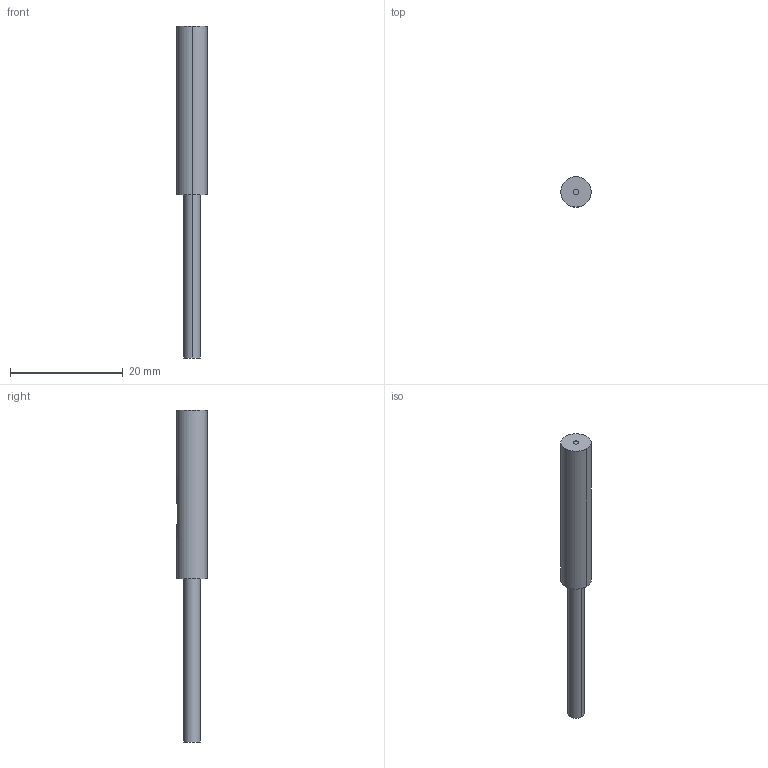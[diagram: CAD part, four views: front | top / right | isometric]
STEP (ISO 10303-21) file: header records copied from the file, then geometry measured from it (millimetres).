
FILE_DESCRIPTION (( 'STEP AP203' ), '1' );
FILE_NAME ('GX-5SU.STEP', '2005-09-07T01:06:27', ( '' ), ( '' ), 'SwSTEP 2.0', 'SolidWorks 2004073', '' );
FILE_SCHEMA (( 'CONFIG_CONTROL_DESIGN' ));
Length unit declared in the file: millimetre
Products named in the file (1): GX-5SU
Bounding box: 5.4 x 5.4 x 59 mm (x, y, z)
Volume: 877.1 mm3; surface area: 821.3 mm2
Topology: 1 solids, 1 shells, 16 faces, 35 edges, 23 vertices
Faces by surface type: cylinder 9, plane 7
Entity records: 547 total; most frequent: CARTESIAN_POINT 107, DIRECTION 80, ORIENTED_EDGE 70, EDGE_CURVE 35, AXIS2_PLACEMENT_3D 32, VERTEX_POINT 23, EDGE_LOOP 18, ADVANCED_FACE 16
